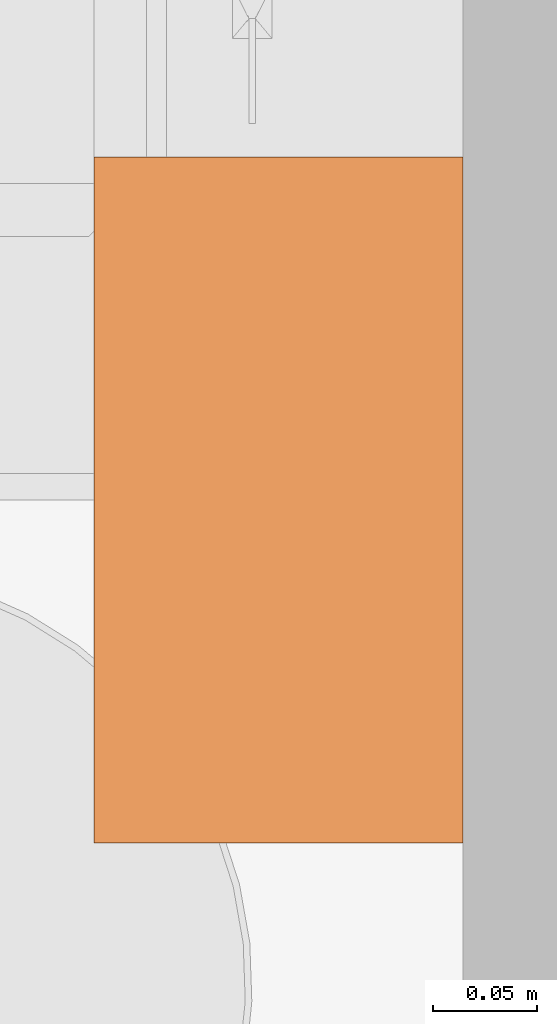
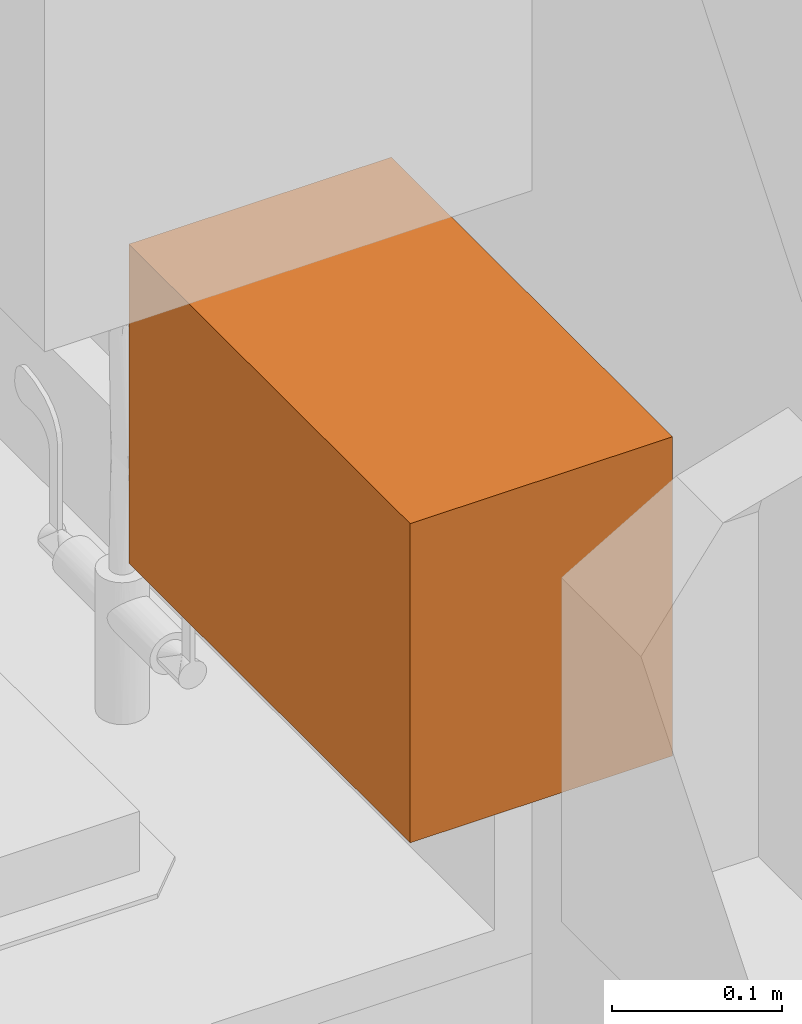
# One storey, part 120 of 142: 1 proxy.
"""IFC2X3 building model written with IfcOpenShell, lengths in feet."""

from ifc_helpers import new_model, entity, si_unit, converted_unit, derived_unit, direction, frame, frame_2d, origin, place, context, subcontext, project, spatial, rectangle, extrude, source, transform, mapped, type_object, type_shapes, element, save


model = new_model("IFC2X3")

# Units and contexts
model_context = context("Model", 3, precision=0.0001, world=origin(), true_north=direction((6.12303176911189e-17, 1.0)))
body_context = subcontext(model_context, "Body", "Model", "MODEL_VIEW")
ifc_project = project(units=[converted_unit("LENGTHUNIT", "FOOT", entity("IfcRatioMeasure", 0.3048), si_unit("LENGTHUNIT", "METRE"), dimensions=[1, 0, 0, 0, 0, 0, 0]), converted_unit("AREAUNIT", "SQUARE FOOT", entity("IfcRatioMeasure", 0.09290304), si_unit("AREAUNIT", "SQUARE_METRE"), dimensions=[2, 0, 0, 0, 0, 0, 0]), converted_unit("VOLUMEUNIT", "CUBIC FOOT", entity("IfcRatioMeasure", 0.028316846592), si_unit("VOLUMEUNIT", "CUBIC_METRE"), dimensions=[3, 0, 0, 0, 0, 0, 0]), converted_unit("PLANEANGLEUNIT", "DEGREE", entity("IfcRatioMeasure", 0.0174532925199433), si_unit("PLANEANGLEUNIT", "RADIAN"), dimensions=[0, 0, 0, 0, 0, 0, 0]), si_unit("MASSUNIT", "GRAM", prefix="KILO"), derived_unit("MASSDENSITYUNIT", [(si_unit("MASSUNIT", "GRAM", prefix="KILO"), 1), (si_unit("LENGTHUNIT", "METRE"), -3)]), si_unit("TIMEUNIT", "SECOND"), si_unit("FREQUENCYUNIT", "HERTZ"), si_unit("THERMODYNAMICTEMPERATUREUNIT", "DEGREE_CELSIUS"), derived_unit("THERMALTRANSMITTANCEUNIT", [(si_unit("MASSUNIT", "GRAM", prefix="KILO"), 1), (si_unit("THERMODYNAMICTEMPERATUREUNIT", "KELVIN"), -1), (si_unit("TIMEUNIT", "SECOND"), -3)]), derived_unit("VOLUMETRICFLOWRATEUNIT", [(si_unit("LENGTHUNIT", "METRE"), 3), (si_unit("TIMEUNIT", "SECOND"), -1)]), si_unit("ELECTRICCURRENTUNIT", "AMPERE"), si_unit("ELECTRICVOLTAGEUNIT", "VOLT"), si_unit("POWERUNIT", "WATT"), si_unit("FORCEUNIT", "NEWTON"), si_unit("ILLUMINANCEUNIT", "LUX"), si_unit("LUMINOUSFLUXUNIT", "LUMEN"), si_unit("LUMINOUSINTENSITYUNIT", "CANDELA"), derived_unit("USERDEFINED", [(si_unit("MASSUNIT", "GRAM", prefix="KILO"), -1), (si_unit("LENGTHUNIT", "METRE"), -2), (si_unit("TIMEUNIT", "SECOND"), 3), (si_unit("LUMINOUSFLUXUNIT", "LUMEN"), 1)]), derived_unit("LINEARVELOCITYUNIT", [(si_unit("LENGTHUNIT", "METRE"), 1), (si_unit("TIMEUNIT", "SECOND"), -1)]), si_unit("PRESSUREUNIT", "PASCAL"), derived_unit("USERDEFINED", [(si_unit("LENGTHUNIT", "METRE"), -2), (si_unit("MASSUNIT", "GRAM", prefix="KILO"), 1), (si_unit("TIMEUNIT", "SECOND"), -2)])], contexts=[model_context])

# Site, building, storey, space
site_placement = place(None, origin())
site = spatial("IfcSite", under=ifc_project, at=site_placement, Name="Default", CompositionType="ELEMENT")
building_placement = place(site_placement, origin())
building = spatial("IfcBuilding", under=site, at=building_placement, Name="OUTPATIENT / PACT CLINIC (Ch. 265)", CompositionType="ELEMENT")
storey_placement = place(building_placement, origin())
storey = spatial("IfcBuildingStorey", under=building, at=storey_placement, Name="LEVEL 1", CompositionType="ELEMENT", Elevation=0.0)
space_placement = place(storey_placement, origin())
space = spatial("IfcSpace", under=storey, at=space_placement, Name="EXPA01", CompositionType="ELEMENT", InteriorOrExteriorSpace="INTERNAL")

# Proxy
building_element_proxy_type = type_object("IfcBuildingElementProxyType", Name="A5080 - Dispenser, Paper Towel", PredefinedType="NOTDEFINED")
shared_shape = source(origin(), body_context, "Body", "SweptSolid", [
    extrude(rectangle(XDim=0.58333333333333, YDim=1.08333333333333, at=frame_2d((9.99200722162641e-16, 0.0), x_axis=(1.0, 0.0))), frame((0.0, -0.291666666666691, 0.0), z_axis=(0.0, 0.0, 1.0), x_axis=(0.0, 1.0, 0.0)), (0.0, 0.0, 1.0), 0.75),
])
type_shapes(building_element_proxy_type, [shared_shape])
proxy_placement = place(space_placement, frame((403.463309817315, -890.024686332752, 3.5), z_axis=(0.0, 0.0, 1.0), x_axis=(0.0, -1.0, 0.0)))
element("IfcBuildingElementProxy", 1, at=proxy_placement, inside=space, type_object=building_element_proxy_type, Name="A5080 - Dispenser, Paper Towel:A5080 - Dispenser, Paper Towel", ObjectType="A5080 - Dispenser, Paper Towel", context=body_context, shape_type="MappedRepresentation", body=[
    mapped(shared_shape, transform((0.0, 0.0, 0.0), scale=1.0)),
])

save(model, "model.ifc")
